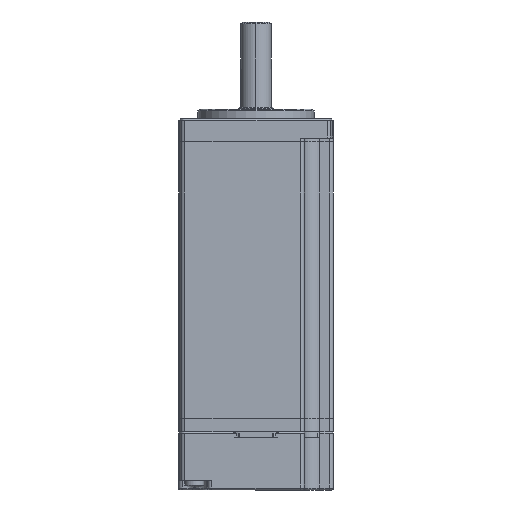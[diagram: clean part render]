
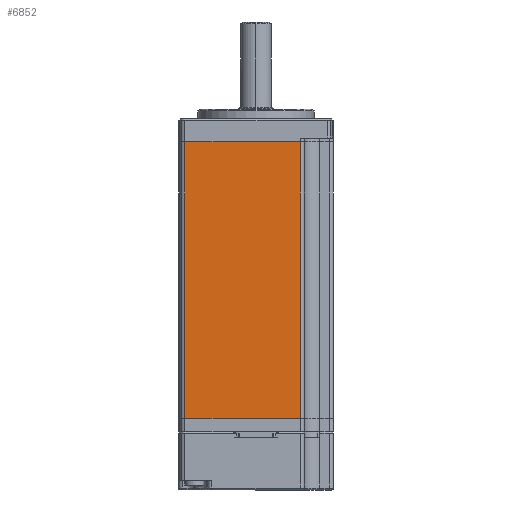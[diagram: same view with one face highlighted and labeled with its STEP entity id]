
A CAD part, front view. The second image highlights one B-rep face of the part: STEP entity #6852.
In plain terms, the highlighted planar face has unit normal (0, -1, 0).
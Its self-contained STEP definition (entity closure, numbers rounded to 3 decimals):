
#1066 = VECTOR ( 'NONE', #10896, 1000. ) ;
#1083 = CARTESIAN_POINT ( 'NONE',  ( -18.397, -20., 71.5 ) ) ;
#1144 = DIRECTION ( 'NONE',  ( 0., 0., -1. ) ) ;
#1236 = DIRECTION ( 'NONE',  ( 0., 1., 0. ) ) ;
#1388 = EDGE_CURVE ( 'NONE', #12301, #12782, #19638, .T. ) ;
#1677 = LINE ( 'NONE', #4257, #10222 ) ;
#1905 = PLANE ( 'NONE',  #16545 ) ;
#1928 = CARTESIAN_POINT ( 'NONE',  ( 20., -20., 71.5 ) ) ;
#2737 = DIRECTION ( 'NONE',  ( 1., 0., 0. ) ) ;
#2894 = EDGE_LOOP ( 'NONE', ( #17227, #3613, #3668, #9973 ) ) ;
#3102 = EDGE_CURVE ( 'NONE', #4792, #13765, #1677, .T. ) ;
#3495 = LINE ( 'NONE', #10691, #19297 ) ;
#3613 = ORIENTED_EDGE ( 'NONE', *, *, #4762, .T. ) ;
#3668 = ORIENTED_EDGE ( 'NONE', *, *, #1388, .F. ) ;
#4257 = CARTESIAN_POINT ( 'NONE',  ( 20., -20., 0. ) ) ;
#4279 = CARTESIAN_POINT ( 'NONE',  ( 11.5, -20., 71.5 ) ) ;
#4762 = EDGE_CURVE ( 'NONE', #13765, #12782, #3495, .T. ) ;
#4792 = VERTEX_POINT ( 'NONE', #9467 ) ;
#4922 = CARTESIAN_POINT ( 'NONE',  ( 11.5, -20., 0. ) ) ;
#6852 = ADVANCED_FACE ( 'NONE', ( #10094 ), #1905, .F. ) ;
#7440 = VECTOR ( 'NONE', #15302, 1000. ) ;
#8953 = EDGE_CURVE ( 'NONE', #12301, #4792, #16305, .T. ) ;
#9467 = CARTESIAN_POINT ( 'NONE',  ( -18.397, -20., 0. ) ) ;
#9973 = ORIENTED_EDGE ( 'NONE', *, *, #8953, .T. ) ;
#10094 = FACE_OUTER_BOUND ( 'NONE', #2894, .T. ) ;
#10222 = VECTOR ( 'NONE', #2737, 1000. ) ;
#10348 = DIRECTION ( 'NONE',  ( 0., 0., 1. ) ) ;
#10691 = CARTESIAN_POINT ( 'NONE',  ( 11.5, -20., 71.5 ) ) ;
#10896 = DIRECTION ( 'NONE',  ( 0., 0., -1. ) ) ;
#11087 = CARTESIAN_POINT ( 'NONE',  ( -18.397, -20., 71.5 ) ) ;
#12301 = VERTEX_POINT ( 'NONE', #1083 ) ;
#12782 = VERTEX_POINT ( 'NONE', #4279 ) ;
#13765 = VERTEX_POINT ( 'NONE', #4922 ) ;
#15231 = CARTESIAN_POINT ( 'NONE',  ( 20., -20., 71.5 ) ) ;
#15302 = DIRECTION ( 'NONE',  ( 1., 0., 0. ) ) ;
#16305 = LINE ( 'NONE', #11087, #1066 ) ;
#16545 = AXIS2_PLACEMENT_3D ( 'NONE', #1928, #1236, #1144 ) ;
#17227 = ORIENTED_EDGE ( 'NONE', *, *, #3102, .T. ) ;
#19297 = VECTOR ( 'NONE', #10348, 1000. ) ;
#19638 = LINE ( 'NONE', #15231, #7440 ) ;
